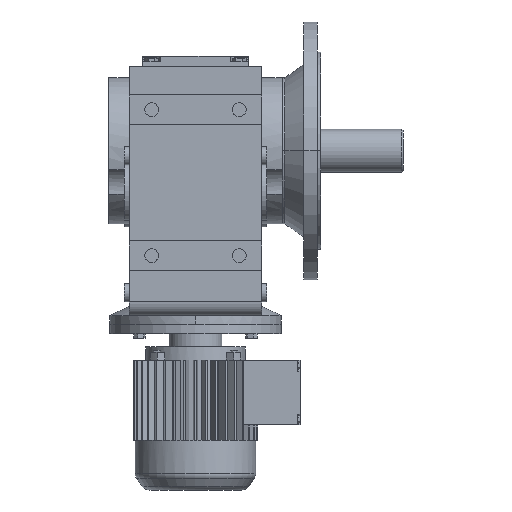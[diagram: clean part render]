
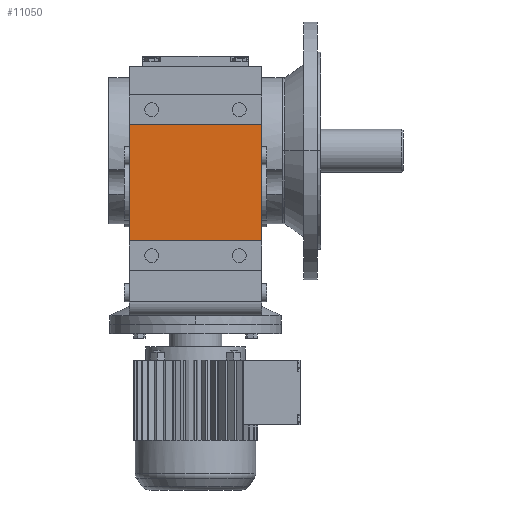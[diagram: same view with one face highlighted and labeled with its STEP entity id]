
A CAD part, front view. The second image highlights one B-rep face of the part: STEP entity #11050.
In plain terms, the highlighted planar face has unit normal (0, -1, 0).
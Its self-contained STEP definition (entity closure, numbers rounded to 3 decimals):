
#1261 = PLANE('',#1262);
#1262 = AXIS2_PLACEMENT_3D('',#1263,#1264,#1265);
#1263 = CARTESIAN_POINT('',(77.,-157.7,-175.9));
#1264 = DIRECTION('',(-1.,0.,0.));
#1265 = DIRECTION('',(0.,0.,1.));
#6233 = VERTEX_POINT('',#6234);
#6234 = CARTESIAN_POINT('',(77.,-173.7,31.));
#6248 = PLANE('',#6249);
#6249 = AXIS2_PLACEMENT_3D('',#6250,#6251,#6252);
#6250 = CARTESIAN_POINT('',(-77.,-173.7,31.));
#6251 = DIRECTION('',(0.,0.,-1.));
#6252 = DIRECTION('',(-1.,0.,0.));
#6260 = EDGE_CURVE('',#6233,#6261,#6263,.T.);
#6261 = VERTEX_POINT('',#6262);
#6262 = CARTESIAN_POINT('',(77.,-173.7,-105.));
#6263 = SURFACE_CURVE('',#6264,(#6268,#6275),.PCURVE_S1.);
#6264 = LINE('',#6265,#6266);
#6265 = CARTESIAN_POINT('',(77.,-173.7,31.));
#6266 = VECTOR('',#6267,1.);
#6267 = DIRECTION('',(0.,0.,-1.));
#6268 = PCURVE('',#1261,#6269);
#6269 = DEFINITIONAL_REPRESENTATION('',(#6270),#6274);
#6270 = LINE('',#6271,#6272);
#6271 = CARTESIAN_POINT('',(206.9,-16.));
#6272 = VECTOR('',#6273,1.);
#6273 = DIRECTION('',(-1.,0.));
#6274 = ( GEOMETRIC_REPRESENTATION_CONTEXT(2) 
PARAMETRIC_REPRESENTATION_CONTEXT() REPRESENTATION_CONTEXT('2D SPACE',''
  ) );
#6275 = PCURVE('',#6276,#6281);
#6276 = PLANE('',#6277);
#6277 = AXIS2_PLACEMENT_3D('',#6278,#6279,#6280);
#6278 = CARTESIAN_POINT('',(-77.,-173.7,31.));
#6279 = DIRECTION('',(0.,-1.,0.));
#6280 = DIRECTION('',(0.,0.,-1.));
#6281 = DEFINITIONAL_REPRESENTATION('',(#6282),#6286);
#6282 = LINE('',#6283,#6284);
#6283 = CARTESIAN_POINT('',(0.,154.));
#6284 = VECTOR('',#6285,1.);
#6285 = DIRECTION('',(1.,0.));
#6286 = ( GEOMETRIC_REPRESENTATION_CONTEXT(2) 
PARAMETRIC_REPRESENTATION_CONTEXT() REPRESENTATION_CONTEXT('2D SPACE',''
  ) );
#6304 = PLANE('',#6305);
#6305 = AXIS2_PLACEMENT_3D('',#6306,#6307,#6308);
#6306 = CARTESIAN_POINT('',(-77.,-173.7,-105.));
#6307 = DIRECTION('',(0.,0.,1.));
#6308 = DIRECTION('',(1.,0.,0.));
#10109 = PLANE('',#10110);
#10110 = AXIS2_PLACEMENT_3D('',#10111,#10112,#10113);
#10111 = CARTESIAN_POINT('',(-77.,-157.7,-175.9));
#10112 = DIRECTION('',(-1.,0.,0.));
#10113 = DIRECTION('',(0.,0.,1.));
#11050 = ADVANCED_FACE('',(#11051),#6276,.T.);
#11051 = FACE_BOUND('',#11052,.T.);
#11052 = EDGE_LOOP('',(#11053,#11076,#11077,#11100));
#11053 = ORIENTED_EDGE('',*,*,#11054,.T.);
#11054 = EDGE_CURVE('',#11055,#6261,#11057,.T.);
#11055 = VERTEX_POINT('',#11056);
#11056 = CARTESIAN_POINT('',(-77.,-173.7,-105.));
#11057 = SURFACE_CURVE('',#11058,(#11062,#11069),.PCURVE_S1.);
#11058 = LINE('',#11059,#11060);
#11059 = CARTESIAN_POINT('',(-77.,-173.7,-105.));
#11060 = VECTOR('',#11061,1.);
#11061 = DIRECTION('',(1.,0.,0.));
#11062 = PCURVE('',#6276,#11063);
#11063 = DEFINITIONAL_REPRESENTATION('',(#11064),#11068);
#11064 = LINE('',#11065,#11066);
#11065 = CARTESIAN_POINT('',(136.,0.));
#11066 = VECTOR('',#11067,1.);
#11067 = DIRECTION('',(0.,1.));
#11068 = ( GEOMETRIC_REPRESENTATION_CONTEXT(2) 
PARAMETRIC_REPRESENTATION_CONTEXT() REPRESENTATION_CONTEXT('2D SPACE',''
  ) );
#11069 = PCURVE('',#6304,#11070);
#11070 = DEFINITIONAL_REPRESENTATION('',(#11071),#11075);
#11071 = LINE('',#11072,#11073);
#11072 = CARTESIAN_POINT('',(0.,0.));
#11073 = VECTOR('',#11074,1.);
#11074 = DIRECTION('',(1.,0.));
#11075 = ( GEOMETRIC_REPRESENTATION_CONTEXT(2) 
PARAMETRIC_REPRESENTATION_CONTEXT() REPRESENTATION_CONTEXT('2D SPACE',''
  ) );
#11076 = ORIENTED_EDGE('',*,*,#6260,.F.);
#11077 = ORIENTED_EDGE('',*,*,#11078,.F.);
#11078 = EDGE_CURVE('',#11079,#6233,#11081,.T.);
#11079 = VERTEX_POINT('',#11080);
#11080 = CARTESIAN_POINT('',(-77.,-173.7,31.));
#11081 = SURFACE_CURVE('',#11082,(#11086,#11093),.PCURVE_S1.);
#11082 = LINE('',#11083,#11084);
#11083 = CARTESIAN_POINT('',(-77.,-173.7,31.));
#11084 = VECTOR('',#11085,1.);
#11085 = DIRECTION('',(1.,0.,0.));
#11086 = PCURVE('',#6276,#11087);
#11087 = DEFINITIONAL_REPRESENTATION('',(#11088),#11092);
#11088 = LINE('',#11089,#11090);
#11089 = CARTESIAN_POINT('',(0.,0.));
#11090 = VECTOR('',#11091,1.);
#11091 = DIRECTION('',(0.,1.));
#11092 = ( GEOMETRIC_REPRESENTATION_CONTEXT(2) 
PARAMETRIC_REPRESENTATION_CONTEXT() REPRESENTATION_CONTEXT('2D SPACE',''
  ) );
#11093 = PCURVE('',#6248,#11094);
#11094 = DEFINITIONAL_REPRESENTATION('',(#11095),#11099);
#11095 = LINE('',#11096,#11097);
#11096 = CARTESIAN_POINT('',(0.,0.));
#11097 = VECTOR('',#11098,1.);
#11098 = DIRECTION('',(-1.,0.));
#11099 = ( GEOMETRIC_REPRESENTATION_CONTEXT(2) 
PARAMETRIC_REPRESENTATION_CONTEXT() REPRESENTATION_CONTEXT('2D SPACE',''
  ) );
#11100 = ORIENTED_EDGE('',*,*,#11101,.T.);
#11101 = EDGE_CURVE('',#11079,#11055,#11102,.T.);
#11102 = SURFACE_CURVE('',#11103,(#11107,#11114),.PCURVE_S1.);
#11103 = LINE('',#11104,#11105);
#11104 = CARTESIAN_POINT('',(-77.,-173.7,31.));
#11105 = VECTOR('',#11106,1.);
#11106 = DIRECTION('',(0.,0.,-1.));
#11107 = PCURVE('',#6276,#11108);
#11108 = DEFINITIONAL_REPRESENTATION('',(#11109),#11113);
#11109 = LINE('',#11110,#11111);
#11110 = CARTESIAN_POINT('',(0.,0.));
#11111 = VECTOR('',#11112,1.);
#11112 = DIRECTION('',(1.,0.));
#11113 = ( GEOMETRIC_REPRESENTATION_CONTEXT(2) 
PARAMETRIC_REPRESENTATION_CONTEXT() REPRESENTATION_CONTEXT('2D SPACE',''
  ) );
#11114 = PCURVE('',#10109,#11115);
#11115 = DEFINITIONAL_REPRESENTATION('',(#11116),#11120);
#11116 = LINE('',#11117,#11118);
#11117 = CARTESIAN_POINT('',(206.9,-16.));
#11118 = VECTOR('',#11119,1.);
#11119 = DIRECTION('',(-1.,0.));
#11120 = ( GEOMETRIC_REPRESENTATION_CONTEXT(2) 
PARAMETRIC_REPRESENTATION_CONTEXT() REPRESENTATION_CONTEXT('2D SPACE',''
  ) );
